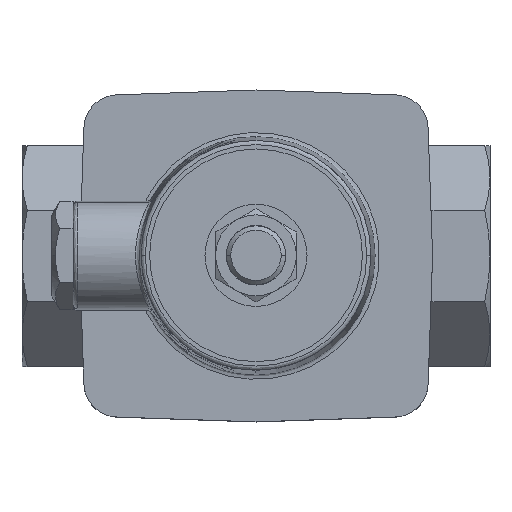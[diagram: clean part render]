
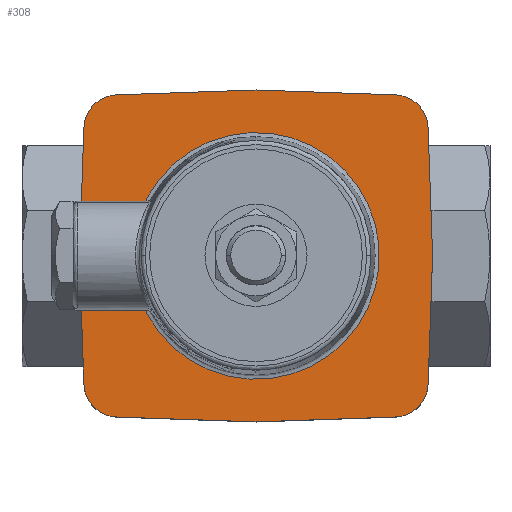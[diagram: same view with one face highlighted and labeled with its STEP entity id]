
A CAD part, top view. The second image highlights one B-rep face of the part: STEP entity #308.
In plain terms, the highlighted planar face has unit normal (0, 0, 1).
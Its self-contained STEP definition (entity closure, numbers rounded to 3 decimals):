
#308=ADVANCED_FACE('',(#1801),#1800,.F.);
#1800=PLANE('',#6453);
#1801=FACE_OUTER_BOUND('',#6454,.T.);
#6450=CARTESIAN_POINT('',(58.355,-56.289,38.5));
#6451=DIRECTION('',(0.,0.,-1.));
#6452=DIRECTION('',(-1.,0.,0.));
#6453=AXIS2_PLACEMENT_3D('',#6450,#6451,#6452);
#6454=EDGE_LOOP('',(#9321,#9322,#9323,#9324,#9325,#9326,#9327,#9328,#9329,#9330,#9331,#9332,#9333,#9334,#9335));
#9321=ORIENTED_EDGE('',*,*,#10993,.T.);
#9322=ORIENTED_EDGE('',*,*,#10635,.T.);
#9323=ORIENTED_EDGE('',*,*,#10994,.T.);
#9324=ORIENTED_EDGE('',*,*,#10652,.T.);
#9325=ORIENTED_EDGE('',*,*,#10995,.T.);
#9326=ORIENTED_EDGE('',*,*,#10996,.T.);
#9327=ORIENTED_EDGE('',*,*,#10997,.T.);
#9328=ORIENTED_EDGE('',*,*,#10998,.T.);
#9329=ORIENTED_EDGE('',*,*,#10999,.T.);
#9330=ORIENTED_EDGE('',*,*,#11000,.T.);
#9331=ORIENTED_EDGE('',*,*,#11001,.T.);
#9332=ORIENTED_EDGE('',*,*,#11002,.T.);
#9333=ORIENTED_EDGE('',*,*,#11003,.T.);
#9334=ORIENTED_EDGE('',*,*,#11004,.T.);
#9335=ORIENTED_EDGE('',*,*,#11005,.T.);
#10635=EDGE_CURVE('',#11896,#11883,#11897,.T.);
#10652=EDGE_CURVE('',#11992,#12005,#12013,.T.);
#10993=EDGE_CURVE('',#14292,#11896,#14293,.T.);
#10994=EDGE_CURVE('',#11883,#11992,#14299,.T.);
#10995=EDGE_CURVE('',#12005,#14305,#14306,.T.);
#10996=EDGE_CURVE('',#14305,#14312,#14313,.T.);
#10997=EDGE_CURVE('',#14312,#14319,#14320,.T.);
#10998=EDGE_CURVE('',#14319,#14326,#14327,.T.);
#10999=EDGE_CURVE('',#14326,#14333,#14334,.T.);
#11000=EDGE_CURVE('',#14333,#14340,#14341,.T.);
#11001=EDGE_CURVE('',#14340,#14347,#14348,.T.);
#11002=EDGE_CURVE('',#14347,#14354,#14355,.T.);
#11003=EDGE_CURVE('',#14354,#14361,#14362,.T.);
#11004=EDGE_CURVE('',#14361,#14368,#14369,.T.);
#11005=EDGE_CURVE('',#14368,#14292,#14375,.T.);
#11883=VERTEX_POINT('',#17953);
#11896=VERTEX_POINT('',#17962);
#11897=LINE('',#17963,#17964);
#11992=VERTEX_POINT('',#18055);
#12005=VERTEX_POINT('',#18064);
#12013=LINE('',#18069,#18070);
#14292=VERTEX_POINT('',#20583);
#14293=LINE('',#20584,#20585);
#14299=CIRCLE('',#20590,29.);
#14305=VERTEX_POINT('',#20591);
#14306=LINE('',#20592,#20593);
#14312=VERTEX_POINT('',#20595);
#14313=CIRCLE('',#20599,8.);
#14319=VERTEX_POINT('',#20600);
#14320=LINE('',#20601,#20602);
#14326=VERTEX_POINT('',#20604);
#14327=LINE('',#20605,#20606);
#14333=VERTEX_POINT('',#20608);
#14334=CIRCLE('',#20612,8.);
#14340=VERTEX_POINT('',#20613);
#14341=LINE('',#20614,#20615);
#14347=VERTEX_POINT('',#20617);
#14348=LINE('',#20618,#20619);
#14354=VERTEX_POINT('',#20621);
#14355=CIRCLE('',#20625,8.);
#14361=VERTEX_POINT('',#20626);
#14362=LINE('',#20627,#20628);
#14368=VERTEX_POINT('',#20630);
#14369=LINE('',#20631,#20632);
#14375=CIRCLE('',#20637,8.);
#17953=CARTESIAN_POINT('',(-27.568,9.,38.5));
#17962=CARTESIAN_POINT('',(-41.186,9.,38.5));
#17963=CARTESIAN_POINT('',(-41.186,9.,38.5));
#17964=VECTOR('',#17965,13.618);
#17965=DIRECTION('',(1.,0.,0.));
#18055=CARTESIAN_POINT('',(-27.568,-9.,38.5));
#18064=CARTESIAN_POINT('',(-41.186,-9.,38.5));
#18069=CARTESIAN_POINT('',(-27.568,-9.,38.5));
#18070=VECTOR('',#18071,13.618);
#18071=DIRECTION('',(-1.,0.,0.));
#20583=CARTESIAN_POINT('',(-40.447,30.141,38.5));
#20584=CARTESIAN_POINT('',(-40.447,30.141,38.5));
#20585=VECTOR('',#20586,21.154);
#20586=DIRECTION('',(-0.035,-0.999,0.));
#20587=CARTESIAN_POINT('',(0.,0.,38.5));
#20588=DIRECTION('',(0.,0.,-1.));
#20589=DIRECTION('',(-0.951,0.31,0.));
#20590=AXIS2_PLACEMENT_3D('',#20587,#20588,#20589);
#20591=CARTESIAN_POINT('',(-40.447,-30.141,38.5));
#20592=CARTESIAN_POINT('',(-41.186,-9.,38.5));
#20593=VECTOR('',#20594,21.154);
#20594=DIRECTION('',(0.035,-0.999,0.));
#20595=CARTESIAN_POINT('',(-32.732,-37.857,38.5));
#20596=CARTESIAN_POINT('',(-32.452,-29.862,38.5));
#20597=DIRECTION('',(0.,0.,1.));
#20598=DIRECTION('',(-1.,0.,0.));
#20599=AXIS2_PLACEMENT_3D('',#20596,#20597,#20598);
#20600=CARTESIAN_POINT('',(0.,-39.,38.5));
#20601=CARTESIAN_POINT('',(-32.732,-37.857,38.5));
#20602=VECTOR('',#20603,32.751);
#20603=DIRECTION('',(0.999,-0.035,0.));
#20604=CARTESIAN_POINT('',(32.732,-37.857,38.5));
#20605=CARTESIAN_POINT('',(0.,-39.,38.5));
#20606=VECTOR('',#20607,32.751);
#20607=DIRECTION('',(0.999,0.035,0.));
#20608=CARTESIAN_POINT('',(40.447,-30.141,38.5));
#20609=CARTESIAN_POINT('',(32.452,-29.862,38.5));
#20610=DIRECTION('',(0.,0.,1.));
#20611=DIRECTION('',(-1.,0.,0.));
#20612=AXIS2_PLACEMENT_3D('',#20609,#20610,#20611);
#20613=CARTESIAN_POINT('',(41.5,0.,38.5));
#20614=CARTESIAN_POINT('',(40.447,-30.141,38.5));
#20615=VECTOR('',#20616,30.159);
#20616=DIRECTION('',(0.035,0.999,0.));
#20617=CARTESIAN_POINT('',(40.447,30.141,38.5));
#20618=CARTESIAN_POINT('',(41.5,0.,38.5));
#20619=VECTOR('',#20620,30.159);
#20620=DIRECTION('',(-0.035,0.999,0.));
#20621=CARTESIAN_POINT('',(32.732,37.857,38.5));
#20622=CARTESIAN_POINT('',(32.452,29.862,38.5));
#20623=DIRECTION('',(0.,0.,1.));
#20624=DIRECTION('',(-1.,0.,0.));
#20625=AXIS2_PLACEMENT_3D('',#20622,#20623,#20624);
#20626=CARTESIAN_POINT('',(0.,39.,38.5));
#20627=CARTESIAN_POINT('',(32.732,37.857,38.5));
#20628=VECTOR('',#20629,32.751);
#20629=DIRECTION('',(-0.999,0.035,0.));
#20630=CARTESIAN_POINT('',(-32.732,37.857,38.5));
#20631=CARTESIAN_POINT('',(0.,39.,38.5));
#20632=VECTOR('',#20633,32.751);
#20633=DIRECTION('',(-0.999,-0.035,0.));
#20634=CARTESIAN_POINT('',(-32.452,29.862,38.5));
#20635=DIRECTION('',(0.,0.,1.));
#20636=DIRECTION('',(-1.,0.,0.));
#20637=AXIS2_PLACEMENT_3D('',#20634,#20635,#20636);
